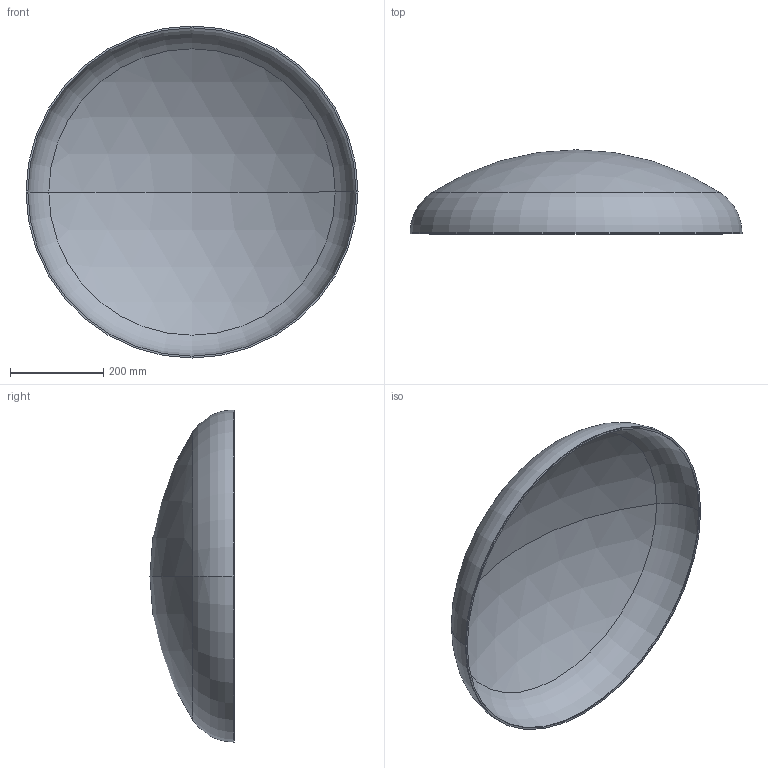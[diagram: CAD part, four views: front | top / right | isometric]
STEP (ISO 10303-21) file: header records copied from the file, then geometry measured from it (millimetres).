
FILE_DESCRIPTION (( 'STEP AP203' ), '1' );
FILE_NAME ('3D_R365_711.2x4_173375700.STEP', '2024-07-16T07:44:50', ( '' ), ( '' ), 'SwSTEP 2.0', 'SolidWorks 2024', '' );
FILE_SCHEMA (( 'CONFIG_CONTROL_DESIGN' ));
Length unit declared in the file: millimetre
Products named in the file (1): 3D_R365_711.2x4_173375700
Bounding box: 711.2 x 180 x 711.2 mm (x, y, z)
Volume: 2163655.7 mm3; surface area: 1090747.8 mm2
Topology: 1 solids, 1 shells, 13 faces, 24 edges, 14 vertices
Faces by surface type: sphere 4, torus 4, cylinder 4, plane 1
Entity records: 407 total; most frequent: DIRECTION 72, CARTESIAN_POINT 52, ORIENTED_EDGE 48, AXIS2_PLACEMENT_3D 34, EDGE_CURVE 24, CIRCLE 20, EDGE_LOOP 14, VERTEX_POINT 14
